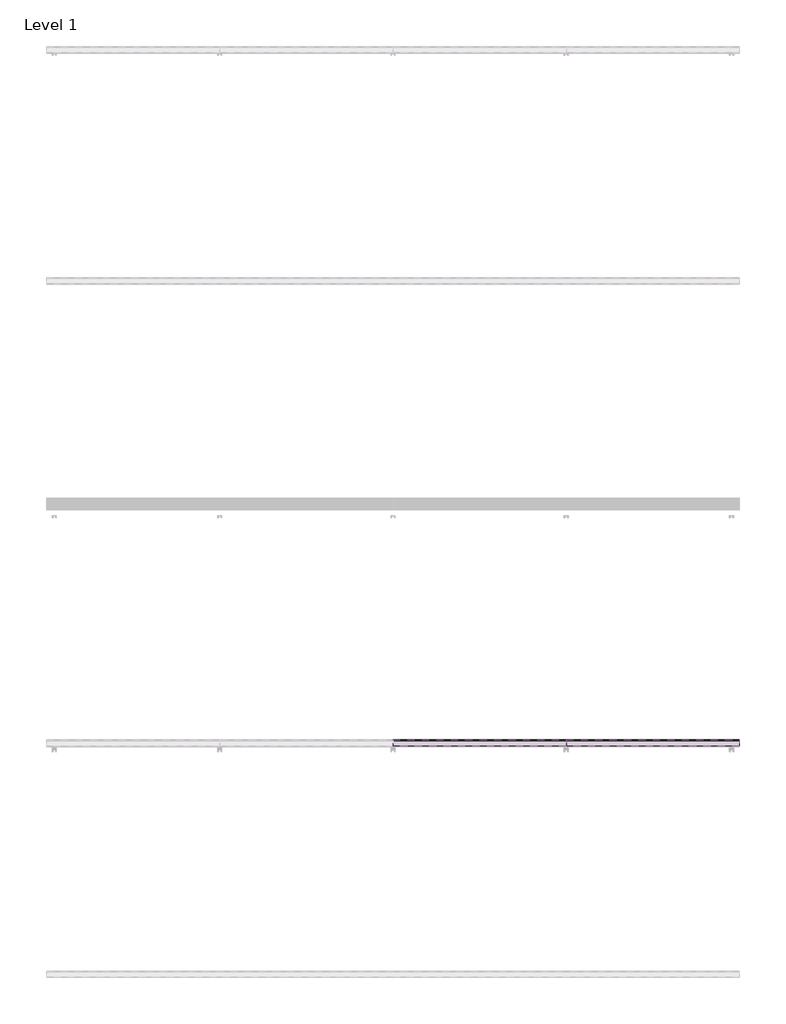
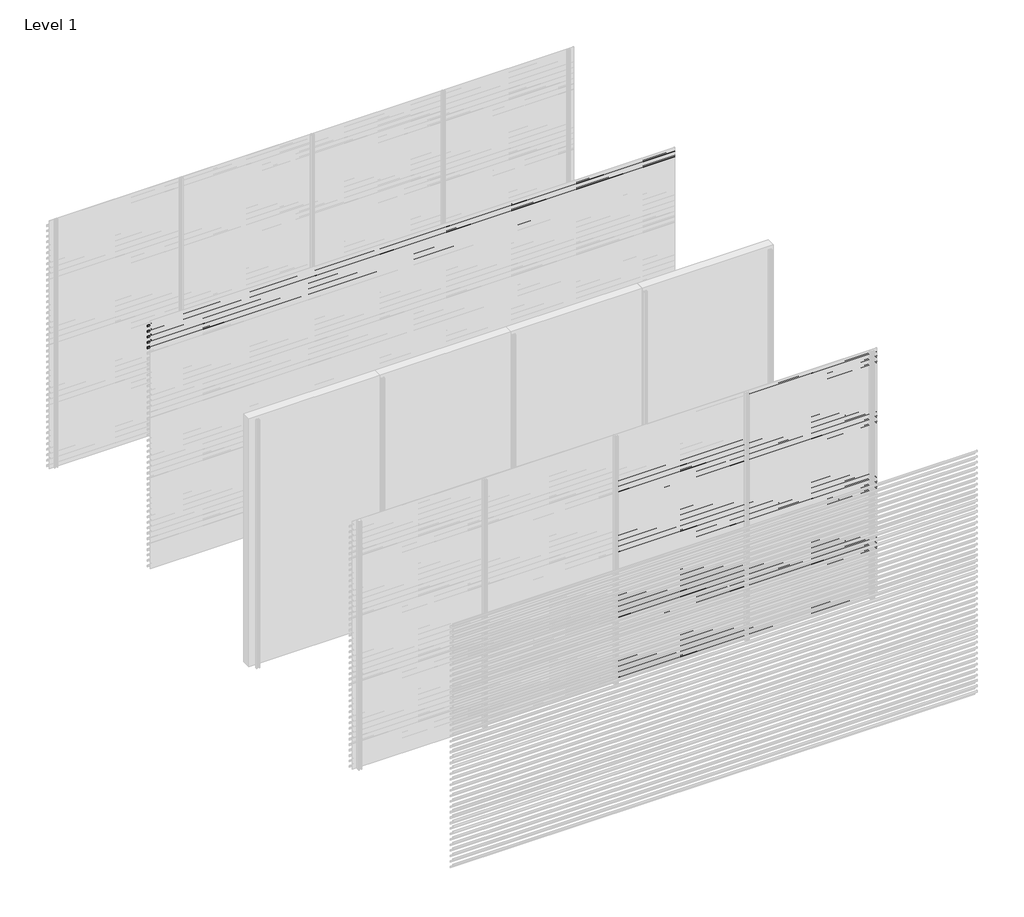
# One storey, part 20 of 25: 87 proxies.
"""IFC4 building model written with IfcOpenShell, lengths in millimetres."""

from ifc_helpers import new_model, si_unit, frame, origin, place, context, project, spatial, polyline, outline, extrude, element, save

model = new_model("IFC4")

# Units and contexts
model_context = context("Model", 3, world=origin())
ifc_project = project(units=[si_unit("LENGTHUNIT", "METRE", prefix="MILLI")], contexts=[model_context])

# Site, building, storey
site = spatial("IfcSite", under=ifc_project)
building = spatial("IfcBuilding", under=site)
storey = spatial("IfcBuildingStorey", under=building, Name="Level 1", Elevation=0.0)

# Proxies
placement = place(None, origin())
element("IfcBuildingElementProxy", 1, Name="Wall Sweeps", at=placement, inside=storey, context=model_context, shape_type="SweptSolid", body=[
    extrude(outline(polyline([(-7943.0, 2913.5), (-7943.0, 2893.5), (-7944.25, 2894.2216933), (-7944.25, 2912.7872415), (-7998.0, 2950.3158044), (-7998.0, 2970.0), (-7996.75, 2970.0), (-7996.75, 2951.0285629), (-7943.0, 2913.5)])), frame((0.0, 0.0, 0.0), z_axis=(1.0, 0.0, 0.0), x_axis=(0.0, 1.0, 0.0)), (0.0, 0.0, 1.0), 6000.0),
])
element("IfcBuildingElementProxy", 2, Name="Wall Sweeps", at=placement, inside=storey, context=model_context, shape_type="SweptSolid", body=[
    extrude(outline(polyline([(-7943.0, 2847.5), (-7943.0, 2827.5), (-7944.25, 2828.2216933), (-7944.25, 2846.7872415), (-7998.0, 2884.3158044), (-7998.0, 2904.0), (-7996.75, 2904.0), (-7996.75, 2885.0285629), (-7943.0, 2847.5)])), frame((0.0, 0.0, 0.0), z_axis=(1.0, 0.0, 0.0), x_axis=(0.0, 1.0, 0.0)), (0.0, 0.0, 1.0), 6000.0),
])
element("IfcBuildingElementProxy", 3, Name="Wall Sweeps", at=placement, inside=storey, context=model_context, shape_type="SweptSolid", body=[
    extrude(outline(polyline([(-7943.0, 2781.5), (-7943.0, 2761.5), (-7944.25, 2762.2216933), (-7944.25, 2780.7872415), (-7998.0, 2818.3158044), (-7998.0, 2838.0), (-7996.75, 2838.0), (-7996.75, 2819.0285629), (-7943.0, 2781.5)])), frame((0.0, 0.0, 0.0), z_axis=(1.0, 0.0, 0.0), x_axis=(0.0, 1.0, 0.0)), (0.0, 0.0, 1.0), 6000.0),
])
element("IfcBuildingElementProxy", 4, Name="Wall Sweeps", at=placement, inside=storey, context=model_context, shape_type="SweptSolid", body=[
    extrude(outline(polyline([(-7943.0, 2715.5), (-7943.0, 2695.5), (-7944.25, 2696.2216933), (-7944.25, 2714.7872415), (-7998.0, 2752.3158044), (-7998.0, 2772.0), (-7996.75, 2772.0), (-7996.75, 2753.0285629), (-7943.0, 2715.5)])), frame((0.0, 0.0, 0.0), z_axis=(1.0, 0.0, 0.0), x_axis=(0.0, 1.0, 0.0)), (0.0, 0.0, 1.0), 6000.0),
])
element("IfcBuildingElementProxy", 5, Name="Wall Sweeps", at=placement, inside=storey, context=model_context, shape_type="SweptSolid", body=[
    extrude(outline(polyline([(-7943.0, 2649.5), (-7943.0, 2629.5), (-7944.25, 2630.2216933), (-7944.25, 2648.7872415), (-7998.0, 2686.3158044), (-7998.0, 2706.0), (-7996.75, 2706.0), (-7996.75, 2687.0285629), (-7943.0, 2649.5)])), frame((0.0, 0.0, 0.0), z_axis=(1.0, 0.0, 0.0), x_axis=(0.0, 1.0, 0.0)), (0.0, 0.0, 1.0), 6000.0),
])
element("IfcBuildingElementProxy", 6, Name="Wall Sweeps", at=placement, inside=storey, context=model_context, shape_type="SweptSolid", body=[
    extrude(outline(polyline([(-11943.0, 2385.5), (-11943.0, 2365.5), (-11944.25, 2366.2216933), (-11944.25, 2384.7872415), (-11998.0, 2422.3158044), (-11998.0, 2442.0), (-11996.75, 2442.0), (-11996.75, 2423.0285629), (-11943.0, 2385.5)])), frame((3000.0, 0.0, 0.0), z_axis=(1.0, 0.0, 0.0), x_axis=(0.0, 1.0, 0.0)), (0.0, 0.0, 1.0), 1500.0),
])
element("IfcBuildingElementProxy", 7, Name="Wall Sweeps", at=placement, inside=storey, context=model_context, shape_type="SweptSolid", body=[
    extrude(outline(polyline([(-11943.0, 2319.5), (-11943.0, 2299.5), (-11944.25, 2300.2216933), (-11944.25, 2318.7872415), (-11998.0, 2356.3158044), (-11998.0, 2376.0), (-11996.75, 2376.0), (-11996.75, 2357.0285629), (-11943.0, 2319.5)])), frame((3000.0, 0.0, 0.0), z_axis=(1.0, 0.0, 0.0), x_axis=(0.0, 1.0, 0.0)), (0.0, 0.0, 1.0), 1500.0),
])
element("IfcBuildingElementProxy", 8, Name="Wall Sweeps", at=placement, inside=storey, context=model_context, shape_type="SweptSolid", body=[
    extrude(outline(polyline([(-11943.0, 2253.5), (-11943.0, 2233.5), (-11944.25, 2234.2216933), (-11944.25, 2252.7872415), (-11998.0, 2290.3158044), (-11998.0, 2310.0), (-11996.75, 2310.0), (-11996.75, 2291.0285629), (-11943.0, 2253.5)])), frame((3000.0, 0.0, 0.0), z_axis=(1.0, 0.0, 0.0), x_axis=(0.0, 1.0, 0.0)), (0.0, 0.0, 1.0), 1500.0),
])
element("IfcBuildingElementProxy", 9, Name="Wall Sweeps", at=placement, inside=storey, context=model_context, shape_type="SweptSolid", body=[
    extrude(outline(polyline([(-11943.0, 2187.5), (-11943.0, 2167.5), (-11944.25, 2168.2216933), (-11944.25, 2186.7872415), (-11998.0, 2224.3158044), (-11998.0, 2244.0), (-11996.75, 2244.0), (-11996.75, 2225.0285629), (-11943.0, 2187.5)])), frame((3000.0, 0.0, 0.0), z_axis=(1.0, 0.0, 0.0), x_axis=(0.0, 1.0, 0.0)), (0.0, 0.0, 1.0), 1500.0),
])
element("IfcBuildingElementProxy", 10, Name="Wall Sweeps", at=placement, inside=storey, context=model_context, shape_type="SweptSolid", body=[
    extrude(outline(polyline([(-11943.0, 2121.5), (-11943.0, 2101.5), (-11944.25, 2102.2216933), (-11944.25, 2120.7872415), (-11998.0, 2158.3158044), (-11998.0, 2178.0), (-11996.75, 2178.0), (-11996.75, 2159.0285629), (-11943.0, 2121.5)])), frame((3000.0, 0.0, 0.0), z_axis=(1.0, 0.0, 0.0), x_axis=(0.0, 1.0, 0.0)), (0.0, 0.0, 1.0), 1500.0),
])
element("IfcBuildingElementProxy", 11, Name="Wall Sweeps", at=placement, inside=storey, context=model_context, shape_type="SweptSolid", body=[
    extrude(outline(polyline([(-11943.0, 2055.5), (-11943.0, 2035.5), (-11944.25, 2036.2216933), (-11944.25, 2054.7872415), (-11998.0, 2092.3158044), (-11998.0, 2112.0), (-11996.75, 2112.0), (-11996.75, 2093.0285629), (-11943.0, 2055.5)])), frame((3000.0, 0.0, 0.0), z_axis=(1.0, 0.0, 0.0), x_axis=(0.0, 1.0, 0.0)), (0.0, 0.0, 1.0), 1500.0),
])
element("IfcBuildingElementProxy", 12, Name="Wall Sweeps", at=placement, inside=storey, context=model_context, shape_type="SweptSolid", body=[
    extrude(outline(polyline([(-11943.0, 1989.5), (-11943.0, 1969.5), (-11944.25, 1970.2216933), (-11944.25, 1988.7872415), (-11998.0, 2026.3158044), (-11998.0, 2046.0), (-11996.75, 2046.0), (-11996.75, 2027.0285629), (-11943.0, 1989.5)])), frame((3000.0, 0.0, 0.0), z_axis=(1.0, 0.0, 0.0), x_axis=(0.0, 1.0, 0.0)), (0.0, 0.0, 1.0), 1500.0),
])
element("IfcBuildingElementProxy", 13, Name="Wall Sweeps", at=placement, inside=storey, context=model_context, shape_type="SweptSolid", body=[
    extrude(outline(polyline([(-11943.0, 1923.5), (-11943.0, 1903.5), (-11944.25, 1904.2216933), (-11944.25, 1922.7872415), (-11998.0, 1960.3158044), (-11998.0, 1980.0), (-11996.75, 1980.0), (-11996.75, 1961.0285629), (-11943.0, 1923.5)])), frame((3000.0, 0.0, 0.0), z_axis=(1.0, 0.0, 0.0), x_axis=(0.0, 1.0, 0.0)), (0.0, 0.0, 1.0), 1500.0),
])
element("IfcBuildingElementProxy", 14, Name="Wall Sweeps", at=placement, inside=storey, context=model_context, shape_type="SweptSolid", body=[
    extrude(outline(polyline([(-11943.0, 1857.5), (-11943.0, 1837.5), (-11944.25, 1838.2216933), (-11944.25, 1856.7872415), (-11998.0, 1894.3158044), (-11998.0, 1914.0), (-11996.75, 1914.0), (-11996.75, 1895.0285629), (-11943.0, 1857.5)])), frame((3000.0, 0.0, 0.0), z_axis=(1.0, 0.0, 0.0), x_axis=(0.0, 1.0, 0.0)), (0.0, 0.0, 1.0), 1500.0),
])
element("IfcBuildingElementProxy", 15, Name="Wall Sweeps", at=placement, inside=storey, context=model_context, shape_type="SweptSolid", body=[
    extrude(outline(polyline([(-11943.0, 1791.5), (-11943.0, 1771.5), (-11944.25, 1772.2216933), (-11944.25, 1790.7872415), (-11998.0, 1828.3158044), (-11998.0, 1848.0), (-11996.75, 1848.0), (-11996.75, 1829.0285629), (-11943.0, 1791.5)])), frame((3000.0, 0.0, 0.0), z_axis=(1.0, 0.0, 0.0), x_axis=(0.0, 1.0, 0.0)), (0.0, 0.0, 1.0), 1500.0),
])
element("IfcBuildingElementProxy", 16, Name="Wall Sweeps", at=placement, inside=storey, context=model_context, shape_type="SweptSolid", body=[
    extrude(outline(polyline([(-11943.0, 1725.5), (-11943.0, 1705.5), (-11944.25, 1706.2216933), (-11944.25, 1724.7872415), (-11998.0, 1762.3158044), (-11998.0, 1782.0), (-11996.75, 1782.0), (-11996.75, 1763.0285629), (-11943.0, 1725.5)])), frame((3000.0, 0.0, 0.0), z_axis=(1.0, 0.0, 0.0), x_axis=(0.0, 1.0, 0.0)), (0.0, 0.0, 1.0), 1500.0),
])
element("IfcBuildingElementProxy", 17, Name="Wall Sweeps", at=placement, inside=storey, context=model_context, shape_type="SweptSolid", body=[
    extrude(outline(polyline([(-11943.0, 1659.5), (-11943.0, 1639.5), (-11944.25, 1640.2216933), (-11944.25, 1658.7872415), (-11998.0, 1696.3158044), (-11998.0, 1716.0), (-11996.75, 1716.0), (-11996.75, 1697.0285629), (-11943.0, 1659.5)])), frame((3000.0, 0.0, 0.0), z_axis=(1.0, 0.0, 0.0), x_axis=(0.0, 1.0, 0.0)), (0.0, 0.0, 1.0), 1500.0),
])
element("IfcBuildingElementProxy", 18, Name="Wall Sweeps", at=placement, inside=storey, context=model_context, shape_type="SweptSolid", body=[
    extrude(outline(polyline([(-11943.0, 1593.5), (-11943.0, 1573.5), (-11944.25, 1574.2216933), (-11944.25, 1592.7872415), (-11998.0, 1630.3158044), (-11998.0, 1650.0), (-11996.75, 1650.0), (-11996.75, 1631.0285629), (-11943.0, 1593.5)])), frame((3000.0, 0.0, 0.0), z_axis=(1.0, 0.0, 0.0), x_axis=(0.0, 1.0, 0.0)), (0.0, 0.0, 1.0), 1500.0),
])
element("IfcBuildingElementProxy", 19, Name="Wall Sweeps", at=placement, inside=storey, context=model_context, shape_type="SweptSolid", body=[
    extrude(outline(polyline([(-11943.0, 1527.5), (-11943.0, 1507.5), (-11944.25, 1508.2216933), (-11944.25, 1526.7872415), (-11998.0, 1564.3158044), (-11998.0, 1584.0), (-11996.75, 1584.0), (-11996.75, 1565.0285629), (-11943.0, 1527.5)])), frame((3000.0, 0.0, 0.0), z_axis=(1.0, 0.0, 0.0), x_axis=(0.0, 1.0, 0.0)), (0.0, 0.0, 1.0), 1500.0),
])
element("IfcBuildingElementProxy", 20, Name="Wall Sweeps", at=placement, inside=storey, context=model_context, shape_type="SweptSolid", body=[
    extrude(outline(polyline([(-11943.0, 1461.5), (-11943.0, 1441.5), (-11944.25, 1442.2216933), (-11944.25, 1460.7872415), (-11998.0, 1498.3158044), (-11998.0, 1518.0), (-11996.75, 1518.0), (-11996.75, 1499.0285629), (-11943.0, 1461.5)])), frame((3000.0, 0.0, 0.0), z_axis=(1.0, 0.0, 0.0), x_axis=(0.0, 1.0, 0.0)), (0.0, 0.0, 1.0), 1500.0),
])
element("IfcBuildingElementProxy", 21, Name="Wall Sweeps", at=placement, inside=storey, context=model_context, shape_type="SweptSolid", body=[
    extrude(outline(polyline([(-11943.0, 1395.5), (-11943.0, 1375.5), (-11944.25, 1376.2216933), (-11944.25, 1394.7872415), (-11998.0, 1432.3158044), (-11998.0, 1452.0), (-11996.75, 1452.0), (-11996.75, 1433.0285629), (-11943.0, 1395.5)])), frame((3000.0, 0.0, 0.0), z_axis=(1.0, 0.0, 0.0), x_axis=(0.0, 1.0, 0.0)), (0.0, 0.0, 1.0), 1500.0),
])
element("IfcBuildingElementProxy", 22, Name="Wall Sweeps", at=placement, inside=storey, context=model_context, shape_type="SweptSolid", body=[
    extrude(outline(polyline([(-11943.0, 1329.5), (-11943.0, 1309.5), (-11944.25, 1310.2216933), (-11944.25, 1328.7872415), (-11998.0, 1366.3158044), (-11998.0, 1386.0), (-11996.75, 1386.0), (-11996.75, 1367.0285629), (-11943.0, 1329.5)])), frame((3000.0, 0.0, 0.0), z_axis=(1.0, 0.0, 0.0), x_axis=(0.0, 1.0, 0.0)), (0.0, 0.0, 1.0), 1500.0),
])
element("IfcBuildingElementProxy", 23, Name="Wall Sweeps", at=placement, inside=storey, context=model_context, shape_type="SweptSolid", body=[
    extrude(outline(polyline([(-11943.0, 1263.5), (-11943.0, 1243.5), (-11944.25, 1244.2216933), (-11944.25, 1262.7872415), (-11998.0, 1300.3158044), (-11998.0, 1320.0), (-11996.75, 1320.0), (-11996.75, 1301.0285629), (-11943.0, 1263.5)])), frame((3000.0, 0.0, 0.0), z_axis=(1.0, 0.0, 0.0), x_axis=(0.0, 1.0, 0.0)), (0.0, 0.0, 1.0), 1500.0),
])
element("IfcBuildingElementProxy", 24, Name="Wall Sweeps", at=placement, inside=storey, context=model_context, shape_type="SweptSolid", body=[
    extrude(outline(polyline([(-11943.0, 1197.5), (-11943.0, 1177.5), (-11944.25, 1178.2216933), (-11944.25, 1196.7872415), (-11998.0, 1234.3158044), (-11998.0, 1254.0), (-11996.75, 1254.0), (-11996.75, 1235.0285629), (-11943.0, 1197.5)])), frame((3000.0, 0.0, 0.0), z_axis=(1.0, 0.0, 0.0), x_axis=(0.0, 1.0, 0.0)), (0.0, 0.0, 1.0), 1500.0),
])
element("IfcBuildingElementProxy", 25, Name="Wall Sweeps", at=placement, inside=storey, context=model_context, shape_type="SweptSolid", body=[
    extrude(outline(polyline([(-11943.0, 1131.5), (-11943.0, 1111.5), (-11944.25, 1112.2216933), (-11944.25, 1130.7872415), (-11998.0, 1168.3158044), (-11998.0, 1188.0), (-11996.75, 1188.0), (-11996.75, 1169.0285629), (-11943.0, 1131.5)])), frame((3000.0, 0.0, 0.0), z_axis=(1.0, 0.0, 0.0), x_axis=(0.0, 1.0, 0.0)), (0.0, 0.0, 1.0), 1500.0),
])
element("IfcBuildingElementProxy", 26, Name="Wall Sweeps", at=placement, inside=storey, context=model_context, shape_type="SweptSolid", body=[
    extrude(outline(polyline([(-11943.0, 1065.5), (-11943.0, 1045.5), (-11944.25, 1046.2216933), (-11944.25, 1064.7872415), (-11998.0, 1102.3158044), (-11998.0, 1122.0), (-11996.75, 1122.0), (-11996.75, 1103.0285629), (-11943.0, 1065.5)])), frame((3000.0, 0.0, 0.0), z_axis=(1.0, 0.0, 0.0), x_axis=(0.0, 1.0, 0.0)), (0.0, 0.0, 1.0), 1500.0),
])
element("IfcBuildingElementProxy", 27, Name="Wall Sweeps", at=placement, inside=storey, context=model_context, shape_type="SweptSolid", body=[
    extrude(outline(polyline([(-11943.0, 999.5), (-11943.0, 979.5), (-11944.25, 980.2216933), (-11944.25, 998.7872415), (-11998.0, 1036.3158044), (-11998.0, 1056.0), (-11996.75, 1056.0), (-11996.75, 1037.0285629), (-11943.0, 999.5)])), frame((3000.0, 0.0, 0.0), z_axis=(1.0, 0.0, 0.0), x_axis=(0.0, 1.0, 0.0)), (0.0, 0.0, 1.0), 1500.0),
])
element("IfcBuildingElementProxy", 28, Name="Wall Sweeps", at=placement, inside=storey, context=model_context, shape_type="SweptSolid", body=[
    extrude(outline(polyline([(-11943.0, 933.5), (-11943.0, 913.5), (-11944.25, 914.2216933), (-11944.25, 932.7872415), (-11998.0, 970.3158044), (-11998.0, 990.0), (-11996.75, 990.0), (-11996.75, 971.0285629), (-11943.0, 933.5)])), frame((3000.0, 0.0, 0.0), z_axis=(1.0, 0.0, 0.0), x_axis=(0.0, 1.0, 0.0)), (0.0, 0.0, 1.0), 1500.0),
])
element("IfcBuildingElementProxy", 29, Name="Wall Sweeps", at=placement, inside=storey, context=model_context, shape_type="SweptSolid", body=[
    extrude(outline(polyline([(-11943.0, 867.5), (-11943.0, 847.5), (-11944.25, 848.2216933), (-11944.25, 866.7872415), (-11998.0, 904.3158044), (-11998.0, 924.0), (-11996.75, 924.0), (-11996.75, 905.0285629), (-11943.0, 867.5)])), frame((3000.0, 0.0, 0.0), z_axis=(1.0, 0.0, 0.0), x_axis=(0.0, 1.0, 0.0)), (0.0, 0.0, 1.0), 1500.0),
])
element("IfcBuildingElementProxy", 30, Name="Wall Sweeps", at=placement, inside=storey, context=model_context, shape_type="SweptSolid", body=[
    extrude(outline(polyline([(-11943.0, 801.5), (-11943.0, 781.5), (-11944.25, 782.2216933), (-11944.25, 800.7872415), (-11998.0, 838.3158044), (-11998.0, 858.0), (-11996.75, 858.0), (-11996.75, 839.0285629), (-11943.0, 801.5)])), frame((3000.0, 0.0, 0.0), z_axis=(1.0, 0.0, 0.0), x_axis=(0.0, 1.0, 0.0)), (0.0, 0.0, 1.0), 1500.0),
])
element("IfcBuildingElementProxy", 31, Name="Wall Sweeps", at=placement, inside=storey, context=model_context, shape_type="SweptSolid", body=[
    extrude(outline(polyline([(-11943.0, 735.5), (-11943.0, 715.5), (-11944.25, 716.2216933), (-11944.25, 734.7872415), (-11998.0, 772.3158044), (-11998.0, 792.0), (-11996.75, 792.0), (-11996.75, 773.0285629), (-11943.0, 735.5)])), frame((3000.0, 0.0, 0.0), z_axis=(1.0, 0.0, 0.0), x_axis=(0.0, 1.0, 0.0)), (0.0, 0.0, 1.0), 1500.0),
])
element("IfcBuildingElementProxy", 32, Name="Wall Sweeps", at=placement, inside=storey, context=model_context, shape_type="SweptSolid", body=[
    extrude(outline(polyline([(-11943.0, 669.5), (-11943.0, 649.5), (-11944.25, 650.2216933), (-11944.25, 668.7872415), (-11998.0, 706.3158044), (-11998.0, 726.0), (-11996.75, 726.0), (-11996.75, 707.0285629), (-11943.0, 669.5)])), frame((3000.0, 0.0, 0.0), z_axis=(1.0, 0.0, 0.0), x_axis=(0.0, 1.0, 0.0)), (0.0, 0.0, 1.0), 1500.0),
])
element("IfcBuildingElementProxy", 33, Name="Wall Sweeps", at=placement, inside=storey, context=model_context, shape_type="SweptSolid", body=[
    extrude(outline(polyline([(-11943.0, 603.5), (-11943.0, 583.5), (-11944.25, 584.2216933), (-11944.25, 602.7872415), (-11998.0, 640.3158044), (-11998.0, 660.0), (-11996.75, 660.0), (-11996.75, 641.0285629), (-11943.0, 603.5)])), frame((3000.0, 0.0, 0.0), z_axis=(1.0, 0.0, 0.0), x_axis=(0.0, 1.0, 0.0)), (0.0, 0.0, 1.0), 1500.0),
])
element("IfcBuildingElementProxy", 34, Name="Wall Sweeps", at=placement, inside=storey, context=model_context, shape_type="SweptSolid", body=[
    extrude(outline(polyline([(-11943.0, 537.5), (-11943.0, 517.5), (-11944.25, 518.2216933), (-11944.25, 536.7872415), (-11998.0, 574.3158044), (-11998.0, 594.0), (-11996.75, 594.0), (-11996.75, 575.0285629), (-11943.0, 537.5)])), frame((3000.0, 0.0, 0.0), z_axis=(1.0, 0.0, 0.0), x_axis=(0.0, 1.0, 0.0)), (0.0, 0.0, 1.0), 1500.0),
])
element("IfcBuildingElementProxy", 35, Name="Wall Sweeps", at=placement, inside=storey, context=model_context, shape_type="SweptSolid", body=[
    extrude(outline(polyline([(-11943.0, 471.5), (-11943.0, 451.5), (-11944.25, 452.2216933), (-11944.25, 470.7872415), (-11998.0, 508.3158044), (-11998.0, 528.0), (-11996.75, 528.0), (-11996.75, 509.0285629), (-11943.0, 471.5)])), frame((3000.0, 0.0, 0.0), z_axis=(1.0, 0.0, 0.0), x_axis=(0.0, 1.0, 0.0)), (0.0, 0.0, 1.0), 1500.0),
])
element("IfcBuildingElementProxy", 36, Name="Wall Sweeps", at=placement, inside=storey, context=model_context, shape_type="SweptSolid", body=[
    extrude(outline(polyline([(-11943.0, 405.5), (-11943.0, 385.5), (-11944.25, 386.2216933), (-11944.25, 404.7872415), (-11998.0, 442.3158044), (-11998.0, 462.0), (-11996.75, 462.0), (-11996.75, 443.0285629), (-11943.0, 405.5)])), frame((3000.0, 0.0, 0.0), z_axis=(1.0, 0.0, 0.0), x_axis=(0.0, 1.0, 0.0)), (0.0, 0.0, 1.0), 1500.0),
])
element("IfcBuildingElementProxy", 37, Name="Wall Sweeps", at=placement, inside=storey, context=model_context, shape_type="SweptSolid", body=[
    extrude(outline(polyline([(-11943.0, 339.5), (-11943.0, 319.5), (-11944.25, 320.2216933), (-11944.25, 338.7872415), (-11998.0, 376.3158044), (-11998.0, 396.0), (-11996.75, 396.0), (-11996.75, 377.0285629), (-11943.0, 339.5)])), frame((3000.0, 0.0, 0.0), z_axis=(1.0, 0.0, 0.0), x_axis=(0.0, 1.0, 0.0)), (0.0, 0.0, 1.0), 1500.0),
])
element("IfcBuildingElementProxy", 38, Name="Wall Sweeps", at=placement, inside=storey, context=model_context, shape_type="SweptSolid", body=[
    extrude(outline(polyline([(-11943.0, 273.5), (-11943.0, 253.5), (-11944.25, 254.2216933), (-11944.25, 272.7872415), (-11998.0, 310.3158044), (-11998.0, 330.0), (-11996.75, 330.0), (-11996.75, 311.0285629), (-11943.0, 273.5)])), frame((3000.0, 0.0, 0.0), z_axis=(1.0, 0.0, 0.0), x_axis=(0.0, 1.0, 0.0)), (0.0, 0.0, 1.0), 1500.0),
])
element("IfcBuildingElementProxy", 39, Name="Wall Sweeps", at=placement, inside=storey, context=model_context, shape_type="SweptSolid", body=[
    extrude(outline(polyline([(-11943.0, 207.5), (-11943.0, 187.5), (-11944.25, 188.2216933), (-11944.25, 206.7872415), (-11998.0, 244.3158044), (-11998.0, 264.0), (-11996.75, 264.0), (-11996.75, 245.0285629), (-11943.0, 207.5)])), frame((3000.0, 0.0, 0.0), z_axis=(1.0, 0.0, 0.0), x_axis=(0.0, 1.0, 0.0)), (0.0, 0.0, 1.0), 1500.0),
])
element("IfcBuildingElementProxy", 40, Name="Wall Sweeps", at=placement, inside=storey, context=model_context, shape_type="SweptSolid", body=[
    extrude(outline(polyline([(-11943.0, 141.5), (-11943.0, 121.5), (-11944.25, 122.2216933), (-11944.25, 140.7872415), (-11998.0, 178.3158044), (-11998.0, 198.0), (-11996.75, 198.0), (-11996.75, 179.0285629), (-11943.0, 141.5)])), frame((3000.0, 0.0, 0.0), z_axis=(1.0, 0.0, 0.0), x_axis=(0.0, 1.0, 0.0)), (0.0, 0.0, 1.0), 1500.0),
])
element("IfcBuildingElementProxy", 41, Name="Wall Sweeps", at=placement, inside=storey, context=model_context, shape_type="SweptSolid", body=[
    extrude(outline(polyline([(-11943.0, 75.5), (-11943.0, 55.5), (-11944.25, 56.2216933), (-11944.25, 74.7872415), (-11998.0, 112.3158044), (-11998.0, 132.0), (-11996.75, 132.0), (-11996.75, 113.0285629), (-11943.0, 75.5)])), frame((3000.0, 0.0, 0.0), z_axis=(1.0, 0.0, 0.0), x_axis=(0.0, 1.0, 0.0)), (0.0, 0.0, 1.0), 1500.0),
])
element("IfcBuildingElementProxy", 42, Name="Wall Sweeps", at=placement, inside=storey, context=model_context, shape_type="SweptSolid", body=[
    extrude(outline(polyline([(-11943.0, 9.5), (-11943.0, -10.5), (-11944.25, -9.7783067), (-11944.25, 8.7872415), (-11998.0, 46.3158044), (-11998.0, 66.0), (-11996.75, 66.0), (-11996.75, 47.0285629), (-11943.0, 9.5)])), frame((3000.0, 0.0, 0.0), z_axis=(1.0, 0.0, 0.0), x_axis=(0.0, 1.0, 0.0)), (0.0, 0.0, 1.0), 1500.0),
])
element("IfcBuildingElementProxy", 43, Name="Wall Sweeps", at=placement, inside=storey, context=model_context, shape_type="SweptSolid", body=[
    extrude(outline(polyline([(-11943.0, 2913.5), (-11943.0, 2893.5), (-11944.25, 2894.2216933), (-11944.25, 2912.7872415), (-11998.0, 2950.3158044), (-11998.0, 2970.0), (-11996.75, 2970.0), (-11996.75, 2951.0285629), (-11943.0, 2913.5)])), frame((4500.0, 0.0, 0.0), z_axis=(1.0, 0.0, 0.0), x_axis=(0.0, 1.0, 0.0)), (0.0, 0.0, 1.0), 1500.0),
])
element("IfcBuildingElementProxy", 44, Name="Wall Sweeps", at=placement, inside=storey, context=model_context, shape_type="SweptSolid", body=[
    extrude(outline(polyline([(-11943.0, 2847.5), (-11943.0, 2827.5), (-11944.25, 2828.2216933), (-11944.25, 2846.7872415), (-11998.0, 2884.3158044), (-11998.0, 2904.0), (-11996.75, 2904.0), (-11996.75, 2885.0285629), (-11943.0, 2847.5)])), frame((4500.0, 0.0, 0.0), z_axis=(1.0, 0.0, 0.0), x_axis=(0.0, 1.0, 0.0)), (0.0, 0.0, 1.0), 1500.0),
])
element("IfcBuildingElementProxy", 45, Name="Wall Sweeps", at=placement, inside=storey, context=model_context, shape_type="SweptSolid", body=[
    extrude(outline(polyline([(-11943.0, 2781.5), (-11943.0, 2761.5), (-11944.25, 2762.2216933), (-11944.25, 2780.7872415), (-11998.0, 2818.3158044), (-11998.0, 2838.0), (-11996.75, 2838.0), (-11996.75, 2819.0285629), (-11943.0, 2781.5)])), frame((4500.0, 0.0, 0.0), z_axis=(1.0, 0.0, 0.0), x_axis=(0.0, 1.0, 0.0)), (0.0, 0.0, 1.0), 1500.0),
])
element("IfcBuildingElementProxy", 46, Name="Wall Sweeps", at=placement, inside=storey, context=model_context, shape_type="SweptSolid", body=[
    extrude(outline(polyline([(-11943.0, 2715.5), (-11943.0, 2695.5), (-11944.25, 2696.2216933), (-11944.25, 2714.7872415), (-11998.0, 2752.3158044), (-11998.0, 2772.0), (-11996.75, 2772.0), (-11996.75, 2753.0285629), (-11943.0, 2715.5)])), frame((4500.0, 0.0, 0.0), z_axis=(1.0, 0.0, 0.0), x_axis=(0.0, 1.0, 0.0)), (0.0, 0.0, 1.0), 1500.0),
])
element("IfcBuildingElementProxy", 47, Name="Wall Sweeps", at=placement, inside=storey, context=model_context, shape_type="SweptSolid", body=[
    extrude(outline(polyline([(-11943.0, 2649.5), (-11943.0, 2629.5), (-11944.25, 2630.2216933), (-11944.25, 2648.7872415), (-11998.0, 2686.3158044), (-11998.0, 2706.0), (-11996.75, 2706.0), (-11996.75, 2687.0285629), (-11943.0, 2649.5)])), frame((4500.0, 0.0, 0.0), z_axis=(1.0, 0.0, 0.0), x_axis=(0.0, 1.0, 0.0)), (0.0, 0.0, 1.0), 1500.0),
])
element("IfcBuildingElementProxy", 48, Name="Wall Sweeps", at=placement, inside=storey, context=model_context, shape_type="SweptSolid", body=[
    extrude(outline(polyline([(-11943.0, 2583.5), (-11943.0, 2563.5), (-11944.25, 2564.2216933), (-11944.25, 2582.7872415), (-11998.0, 2620.3158044), (-11998.0, 2640.0), (-11996.75, 2640.0), (-11996.75, 2621.0285629), (-11943.0, 2583.5)])), frame((4500.0, 0.0, 0.0), z_axis=(1.0, 0.0, 0.0), x_axis=(0.0, 1.0, 0.0)), (0.0, 0.0, 1.0), 1500.0),
])
element("IfcBuildingElementProxy", 49, Name="Wall Sweeps", at=placement, inside=storey, context=model_context, shape_type="SweptSolid", body=[
    extrude(outline(polyline([(-11943.0, 2517.5), (-11943.0, 2497.5), (-11944.25, 2498.2216933), (-11944.25, 2516.7872415), (-11998.0, 2554.3158044), (-11998.0, 2574.0), (-11996.75, 2574.0), (-11996.75, 2555.0285629), (-11943.0, 2517.5)])), frame((4500.0, 0.0, 0.0), z_axis=(1.0, 0.0, 0.0), x_axis=(0.0, 1.0, 0.0)), (0.0, 0.0, 1.0), 1500.0),
])
element("IfcBuildingElementProxy", 50, Name="Wall Sweeps", at=placement, inside=storey, context=model_context, shape_type="SweptSolid", body=[
    extrude(outline(polyline([(-11943.0, 2451.5), (-11943.0, 2431.5), (-11944.25, 2432.2216933), (-11944.25, 2450.7872415), (-11998.0, 2488.3158044), (-11998.0, 2508.0), (-11996.75, 2508.0), (-11996.75, 2489.0285629), (-11943.0, 2451.5)])), frame((4500.0, 0.0, 0.0), z_axis=(1.0, 0.0, 0.0), x_axis=(0.0, 1.0, 0.0)), (0.0, 0.0, 1.0), 1500.0),
])
element("IfcBuildingElementProxy", 51, Name="Wall Sweeps", at=placement, inside=storey, context=model_context, shape_type="SweptSolid", body=[
    extrude(outline(polyline([(-11943.0, 2385.5), (-11943.0, 2365.5), (-11944.25, 2366.2216933), (-11944.25, 2384.7872415), (-11998.0, 2422.3158044), (-11998.0, 2442.0), (-11996.75, 2442.0), (-11996.75, 2423.0285629), (-11943.0, 2385.5)])), frame((4500.0, 0.0, 0.0), z_axis=(1.0, 0.0, 0.0), x_axis=(0.0, 1.0, 0.0)), (0.0, 0.0, 1.0), 1500.0),
])
element("IfcBuildingElementProxy", 52, Name="Wall Sweeps", at=placement, inside=storey, context=model_context, shape_type="SweptSolid", body=[
    extrude(outline(polyline([(-11943.0, 2319.5), (-11943.0, 2299.5), (-11944.25, 2300.2216933), (-11944.25, 2318.7872415), (-11998.0, 2356.3158044), (-11998.0, 2376.0), (-11996.75, 2376.0), (-11996.75, 2357.0285629), (-11943.0, 2319.5)])), frame((4500.0, 0.0, 0.0), z_axis=(1.0, 0.0, 0.0), x_axis=(0.0, 1.0, 0.0)), (0.0, 0.0, 1.0), 1500.0),
])
element("IfcBuildingElementProxy", 53, Name="Wall Sweeps", at=placement, inside=storey, context=model_context, shape_type="SweptSolid", body=[
    extrude(outline(polyline([(-11943.0, 2253.5), (-11943.0, 2233.5), (-11944.25, 2234.2216933), (-11944.25, 2252.7872415), (-11998.0, 2290.3158044), (-11998.0, 2310.0), (-11996.75, 2310.0), (-11996.75, 2291.0285629), (-11943.0, 2253.5)])), frame((4500.0, 0.0, 0.0), z_axis=(1.0, 0.0, 0.0), x_axis=(0.0, 1.0, 0.0)), (0.0, 0.0, 1.0), 1500.0),
])
element("IfcBuildingElementProxy", 54, Name="Wall Sweeps", at=placement, inside=storey, context=model_context, shape_type="SweptSolid", body=[
    extrude(outline(polyline([(-11943.0, 2187.5), (-11943.0, 2167.5), (-11944.25, 2168.2216933), (-11944.25, 2186.7872415), (-11998.0, 2224.3158044), (-11998.0, 2244.0), (-11996.75, 2244.0), (-11996.75, 2225.0285629), (-11943.0, 2187.5)])), frame((4500.0, 0.0, 0.0), z_axis=(1.0, 0.0, 0.0), x_axis=(0.0, 1.0, 0.0)), (0.0, 0.0, 1.0), 1500.0),
])
element("IfcBuildingElementProxy", 55, Name="Wall Sweeps", at=placement, inside=storey, context=model_context, shape_type="SweptSolid", body=[
    extrude(outline(polyline([(-11943.0, 2121.5), (-11943.0, 2101.5), (-11944.25, 2102.2216933), (-11944.25, 2120.7872415), (-11998.0, 2158.3158044), (-11998.0, 2178.0), (-11996.75, 2178.0), (-11996.75, 2159.0285629), (-11943.0, 2121.5)])), frame((4500.0, 0.0, 0.0), z_axis=(1.0, 0.0, 0.0), x_axis=(0.0, 1.0, 0.0)), (0.0, 0.0, 1.0), 1500.0),
])
element("IfcBuildingElementProxy", 56, Name="Wall Sweeps", at=placement, inside=storey, context=model_context, shape_type="SweptSolid", body=[
    extrude(outline(polyline([(-11943.0, 2055.5), (-11943.0, 2035.5), (-11944.25, 2036.2216933), (-11944.25, 2054.7872415), (-11998.0, 2092.3158044), (-11998.0, 2112.0), (-11996.75, 2112.0), (-11996.75, 2093.0285629), (-11943.0, 2055.5)])), frame((4500.0, 0.0, 0.0), z_axis=(1.0, 0.0, 0.0), x_axis=(0.0, 1.0, 0.0)), (0.0, 0.0, 1.0), 1500.0),
])
element("IfcBuildingElementProxy", 57, Name="Wall Sweeps", at=placement, inside=storey, context=model_context, shape_type="SweptSolid", body=[
    extrude(outline(polyline([(-11943.0, 1989.5), (-11943.0, 1969.5), (-11944.25, 1970.2216933), (-11944.25, 1988.7872415), (-11998.0, 2026.3158044), (-11998.0, 2046.0), (-11996.75, 2046.0), (-11996.75, 2027.0285629), (-11943.0, 1989.5)])), frame((4500.0, 0.0, 0.0), z_axis=(1.0, 0.0, 0.0), x_axis=(0.0, 1.0, 0.0)), (0.0, 0.0, 1.0), 1500.0),
])
element("IfcBuildingElementProxy", 58, Name="Wall Sweeps", at=placement, inside=storey, context=model_context, shape_type="SweptSolid", body=[
    extrude(outline(polyline([(-11943.0, 1923.5), (-11943.0, 1903.5), (-11944.25, 1904.2216933), (-11944.25, 1922.7872415), (-11998.0, 1960.3158044), (-11998.0, 1980.0), (-11996.75, 1980.0), (-11996.75, 1961.0285629), (-11943.0, 1923.5)])), frame((4500.0, 0.0, 0.0), z_axis=(1.0, 0.0, 0.0), x_axis=(0.0, 1.0, 0.0)), (0.0, 0.0, 1.0), 1500.0),
])
element("IfcBuildingElementProxy", 59, Name="Wall Sweeps", at=placement, inside=storey, context=model_context, shape_type="SweptSolid", body=[
    extrude(outline(polyline([(-11943.0, 1857.5), (-11943.0, 1837.5), (-11944.25, 1838.2216933), (-11944.25, 1856.7872415), (-11998.0, 1894.3158044), (-11998.0, 1914.0), (-11996.75, 1914.0), (-11996.75, 1895.0285629), (-11943.0, 1857.5)])), frame((4500.0, 0.0, 0.0), z_axis=(1.0, 0.0, 0.0), x_axis=(0.0, 1.0, 0.0)), (0.0, 0.0, 1.0), 1500.0),
])
element("IfcBuildingElementProxy", 60, Name="Wall Sweeps", at=placement, inside=storey, context=model_context, shape_type="SweptSolid", body=[
    extrude(outline(polyline([(-11943.0, 1791.5), (-11943.0, 1771.5), (-11944.25, 1772.2216933), (-11944.25, 1790.7872415), (-11998.0, 1828.3158044), (-11998.0, 1848.0), (-11996.75, 1848.0), (-11996.75, 1829.0285629), (-11943.0, 1791.5)])), frame((4500.0, 0.0, 0.0), z_axis=(1.0, 0.0, 0.0), x_axis=(0.0, 1.0, 0.0)), (0.0, 0.0, 1.0), 1500.0),
])
element("IfcBuildingElementProxy", 61, Name="Wall Sweeps", at=placement, inside=storey, context=model_context, shape_type="SweptSolid", body=[
    extrude(outline(polyline([(-11943.0, 1725.5), (-11943.0, 1705.5), (-11944.25, 1706.2216933), (-11944.25, 1724.7872415), (-11998.0, 1762.3158044), (-11998.0, 1782.0), (-11996.75, 1782.0), (-11996.75, 1763.0285629), (-11943.0, 1725.5)])), frame((4500.0, 0.0, 0.0), z_axis=(1.0, 0.0, 0.0), x_axis=(0.0, 1.0, 0.0)), (0.0, 0.0, 1.0), 1500.0),
])
element("IfcBuildingElementProxy", 62, Name="Wall Sweeps", at=placement, inside=storey, context=model_context, shape_type="SweptSolid", body=[
    extrude(outline(polyline([(-11943.0, 1659.5), (-11943.0, 1639.5), (-11944.25, 1640.2216933), (-11944.25, 1658.7872415), (-11998.0, 1696.3158044), (-11998.0, 1716.0), (-11996.75, 1716.0), (-11996.75, 1697.0285629), (-11943.0, 1659.5)])), frame((4500.0, 0.0, 0.0), z_axis=(1.0, 0.0, 0.0), x_axis=(0.0, 1.0, 0.0)), (0.0, 0.0, 1.0), 1500.0),
])
element("IfcBuildingElementProxy", 63, Name="Wall Sweeps", at=placement, inside=storey, context=model_context, shape_type="SweptSolid", body=[
    extrude(outline(polyline([(-11943.0, 1593.5), (-11943.0, 1573.5), (-11944.25, 1574.2216933), (-11944.25, 1592.7872415), (-11998.0, 1630.3158044), (-11998.0, 1650.0), (-11996.75, 1650.0), (-11996.75, 1631.0285629), (-11943.0, 1593.5)])), frame((4500.0, 0.0, 0.0), z_axis=(1.0, 0.0, 0.0), x_axis=(0.0, 1.0, 0.0)), (0.0, 0.0, 1.0), 1500.0),
])
element("IfcBuildingElementProxy", 64, Name="Wall Sweeps", at=placement, inside=storey, context=model_context, shape_type="SweptSolid", body=[
    extrude(outline(polyline([(-11943.0, 1527.5), (-11943.0, 1507.5), (-11944.25, 1508.2216933), (-11944.25, 1526.7872415), (-11998.0, 1564.3158044), (-11998.0, 1584.0), (-11996.75, 1584.0), (-11996.75, 1565.0285629), (-11943.0, 1527.5)])), frame((4500.0, 0.0, 0.0), z_axis=(1.0, 0.0, 0.0), x_axis=(0.0, 1.0, 0.0)), (0.0, 0.0, 1.0), 1500.0),
])
element("IfcBuildingElementProxy", 65, Name="Wall Sweeps", at=placement, inside=storey, context=model_context, shape_type="SweptSolid", body=[
    extrude(outline(polyline([(-11943.0, 1461.5), (-11943.0, 1441.5), (-11944.25, 1442.2216933), (-11944.25, 1460.7872415), (-11998.0, 1498.3158044), (-11998.0, 1518.0), (-11996.75, 1518.0), (-11996.75, 1499.0285629), (-11943.0, 1461.5)])), frame((4500.0, 0.0, 0.0), z_axis=(1.0, 0.0, 0.0), x_axis=(0.0, 1.0, 0.0)), (0.0, 0.0, 1.0), 1500.0),
])
element("IfcBuildingElementProxy", 66, Name="Wall Sweeps", at=placement, inside=storey, context=model_context, shape_type="SweptSolid", body=[
    extrude(outline(polyline([(-11943.0, 1395.5), (-11943.0, 1375.5), (-11944.25, 1376.2216933), (-11944.25, 1394.7872415), (-11998.0, 1432.3158044), (-11998.0, 1452.0), (-11996.75, 1452.0), (-11996.75, 1433.0285629), (-11943.0, 1395.5)])), frame((4500.0, 0.0, 0.0), z_axis=(1.0, 0.0, 0.0), x_axis=(0.0, 1.0, 0.0)), (0.0, 0.0, 1.0), 1500.0),
])
element("IfcBuildingElementProxy", 67, Name="Wall Sweeps", at=placement, inside=storey, context=model_context, shape_type="SweptSolid", body=[
    extrude(outline(polyline([(-11943.0, 1329.5), (-11943.0, 1309.5), (-11944.25, 1310.2216933), (-11944.25, 1328.7872415), (-11998.0, 1366.3158044), (-11998.0, 1386.0), (-11996.75, 1386.0), (-11996.75, 1367.0285629), (-11943.0, 1329.5)])), frame((4500.0, 0.0, 0.0), z_axis=(1.0, 0.0, 0.0), x_axis=(0.0, 1.0, 0.0)), (0.0, 0.0, 1.0), 1500.0),
])
element("IfcBuildingElementProxy", 68, Name="Wall Sweeps", at=placement, inside=storey, context=model_context, shape_type="SweptSolid", body=[
    extrude(outline(polyline([(-11943.0, 1263.5), (-11943.0, 1243.5), (-11944.25, 1244.2216933), (-11944.25, 1262.7872415), (-11998.0, 1300.3158044), (-11998.0, 1320.0), (-11996.75, 1320.0), (-11996.75, 1301.0285629), (-11943.0, 1263.5)])), frame((4500.0, 0.0, 0.0), z_axis=(1.0, 0.0, 0.0), x_axis=(0.0, 1.0, 0.0)), (0.0, 0.0, 1.0), 1500.0),
])
element("IfcBuildingElementProxy", 69, Name="Wall Sweeps", at=placement, inside=storey, context=model_context, shape_type="SweptSolid", body=[
    extrude(outline(polyline([(-11943.0, 1197.5), (-11943.0, 1177.5), (-11944.25, 1178.2216933), (-11944.25, 1196.7872415), (-11998.0, 1234.3158044), (-11998.0, 1254.0), (-11996.75, 1254.0), (-11996.75, 1235.0285629), (-11943.0, 1197.5)])), frame((4500.0, 0.0, 0.0), z_axis=(1.0, 0.0, 0.0), x_axis=(0.0, 1.0, 0.0)), (0.0, 0.0, 1.0), 1500.0),
])
element("IfcBuildingElementProxy", 70, Name="Wall Sweeps", at=placement, inside=storey, context=model_context, shape_type="SweptSolid", body=[
    extrude(outline(polyline([(-11943.0, 1131.5), (-11943.0, 1111.5), (-11944.25, 1112.2216933), (-11944.25, 1130.7872415), (-11998.0, 1168.3158044), (-11998.0, 1188.0), (-11996.75, 1188.0), (-11996.75, 1169.0285629), (-11943.0, 1131.5)])), frame((4500.0, 0.0, 0.0), z_axis=(1.0, 0.0, 0.0), x_axis=(0.0, 1.0, 0.0)), (0.0, 0.0, 1.0), 1500.0),
])
element("IfcBuildingElementProxy", 71, Name="Wall Sweeps", at=placement, inside=storey, context=model_context, shape_type="SweptSolid", body=[
    extrude(outline(polyline([(-11943.0, 1065.5), (-11943.0, 1045.5), (-11944.25, 1046.2216933), (-11944.25, 1064.7872415), (-11998.0, 1102.3158044), (-11998.0, 1122.0), (-11996.75, 1122.0), (-11996.75, 1103.0285629), (-11943.0, 1065.5)])), frame((4500.0, 0.0, 0.0), z_axis=(1.0, 0.0, 0.0), x_axis=(0.0, 1.0, 0.0)), (0.0, 0.0, 1.0), 1500.0),
])
element("IfcBuildingElementProxy", 72, Name="Wall Sweeps", at=placement, inside=storey, context=model_context, shape_type="SweptSolid", body=[
    extrude(outline(polyline([(-11943.0, 999.5), (-11943.0, 979.5), (-11944.25, 980.2216933), (-11944.25, 998.7872415), (-11998.0, 1036.3158044), (-11998.0, 1056.0), (-11996.75, 1056.0), (-11996.75, 1037.0285629), (-11943.0, 999.5)])), frame((4500.0, 0.0, 0.0), z_axis=(1.0, 0.0, 0.0), x_axis=(0.0, 1.0, 0.0)), (0.0, 0.0, 1.0), 1500.0),
])
element("IfcBuildingElementProxy", 73, Name="Wall Sweeps", at=placement, inside=storey, context=model_context, shape_type="SweptSolid", body=[
    extrude(outline(polyline([(-11943.0, 933.5), (-11943.0, 913.5), (-11944.25, 914.2216933), (-11944.25, 932.7872415), (-11998.0, 970.3158044), (-11998.0, 990.0), (-11996.75, 990.0), (-11996.75, 971.0285629), (-11943.0, 933.5)])), frame((4500.0, 0.0, 0.0), z_axis=(1.0, 0.0, 0.0), x_axis=(0.0, 1.0, 0.0)), (0.0, 0.0, 1.0), 1500.0),
])
element("IfcBuildingElementProxy", 74, Name="Wall Sweeps", at=placement, inside=storey, context=model_context, shape_type="SweptSolid", body=[
    extrude(outline(polyline([(-11943.0, 867.5), (-11943.0, 847.5), (-11944.25, 848.2216933), (-11944.25, 866.7872415), (-11998.0, 904.3158044), (-11998.0, 924.0), (-11996.75, 924.0), (-11996.75, 905.0285629), (-11943.0, 867.5)])), frame((4500.0, 0.0, 0.0), z_axis=(1.0, 0.0, 0.0), x_axis=(0.0, 1.0, 0.0)), (0.0, 0.0, 1.0), 1500.0),
])
element("IfcBuildingElementProxy", 75, Name="Wall Sweeps", at=placement, inside=storey, context=model_context, shape_type="SweptSolid", body=[
    extrude(outline(polyline([(-11943.0, 801.5), (-11943.0, 781.5), (-11944.25, 782.2216933), (-11944.25, 800.7872415), (-11998.0, 838.3158044), (-11998.0, 858.0), (-11996.75, 858.0), (-11996.75, 839.0285629), (-11943.0, 801.5)])), frame((4500.0, 0.0, 0.0), z_axis=(1.0, 0.0, 0.0), x_axis=(0.0, 1.0, 0.0)), (0.0, 0.0, 1.0), 1500.0),
])
element("IfcBuildingElementProxy", 76, Name="Wall Sweeps", at=placement, inside=storey, context=model_context, shape_type="SweptSolid", body=[
    extrude(outline(polyline([(-11943.0, 735.5), (-11943.0, 715.5), (-11944.25, 716.2216933), (-11944.25, 734.7872415), (-11998.0, 772.3158044), (-11998.0, 792.0), (-11996.75, 792.0), (-11996.75, 773.0285629), (-11943.0, 735.5)])), frame((4500.0, 0.0, 0.0), z_axis=(1.0, 0.0, 0.0), x_axis=(0.0, 1.0, 0.0)), (0.0, 0.0, 1.0), 1500.0),
])
element("IfcBuildingElementProxy", 77, Name="Wall Sweeps", at=placement, inside=storey, context=model_context, shape_type="SweptSolid", body=[
    extrude(outline(polyline([(-11943.0, 669.5), (-11943.0, 649.5), (-11944.25, 650.2216933), (-11944.25, 668.7872415), (-11998.0, 706.3158044), (-11998.0, 726.0), (-11996.75, 726.0), (-11996.75, 707.0285629), (-11943.0, 669.5)])), frame((4500.0, 0.0, 0.0), z_axis=(1.0, 0.0, 0.0), x_axis=(0.0, 1.0, 0.0)), (0.0, 0.0, 1.0), 1500.0),
])
element("IfcBuildingElementProxy", 78, Name="Wall Sweeps", at=placement, inside=storey, context=model_context, shape_type="SweptSolid", body=[
    extrude(outline(polyline([(-11943.0, 603.5), (-11943.0, 583.5), (-11944.25, 584.2216933), (-11944.25, 602.7872415), (-11998.0, 640.3158044), (-11998.0, 660.0), (-11996.75, 660.0), (-11996.75, 641.0285629), (-11943.0, 603.5)])), frame((4500.0, 0.0, 0.0), z_axis=(1.0, 0.0, 0.0), x_axis=(0.0, 1.0, 0.0)), (0.0, 0.0, 1.0), 1500.0),
])
element("IfcBuildingElementProxy", 79, Name="Wall Sweeps", at=placement, inside=storey, context=model_context, shape_type="SweptSolid", body=[
    extrude(outline(polyline([(-11943.0, 537.5), (-11943.0, 517.5), (-11944.25, 518.2216933), (-11944.25, 536.7872415), (-11998.0, 574.3158044), (-11998.0, 594.0), (-11996.75, 594.0), (-11996.75, 575.0285629), (-11943.0, 537.5)])), frame((4500.0, 0.0, 0.0), z_axis=(1.0, 0.0, 0.0), x_axis=(0.0, 1.0, 0.0)), (0.0, 0.0, 1.0), 1500.0),
])
element("IfcBuildingElementProxy", 80, Name="Wall Sweeps", at=placement, inside=storey, context=model_context, shape_type="SweptSolid", body=[
    extrude(outline(polyline([(-11943.0, 471.5), (-11943.0, 451.5), (-11944.25, 452.2216933), (-11944.25, 470.7872415), (-11998.0, 508.3158044), (-11998.0, 528.0), (-11996.75, 528.0), (-11996.75, 509.0285629), (-11943.0, 471.5)])), frame((4500.0, 0.0, 0.0), z_axis=(1.0, 0.0, 0.0), x_axis=(0.0, 1.0, 0.0)), (0.0, 0.0, 1.0), 1500.0),
])
element("IfcBuildingElementProxy", 81, Name="Wall Sweeps", at=placement, inside=storey, context=model_context, shape_type="SweptSolid", body=[
    extrude(outline(polyline([(-11943.0, 405.5), (-11943.0, 385.5), (-11944.25, 386.2216933), (-11944.25, 404.7872415), (-11998.0, 442.3158044), (-11998.0, 462.0), (-11996.75, 462.0), (-11996.75, 443.0285629), (-11943.0, 405.5)])), frame((4500.0, 0.0, 0.0), z_axis=(1.0, 0.0, 0.0), x_axis=(0.0, 1.0, 0.0)), (0.0, 0.0, 1.0), 1500.0),
])
element("IfcBuildingElementProxy", 82, Name="Wall Sweeps", at=placement, inside=storey, context=model_context, shape_type="SweptSolid", body=[
    extrude(outline(polyline([(-11943.0, 339.5), (-11943.0, 319.5), (-11944.25, 320.2216933), (-11944.25, 338.7872415), (-11998.0, 376.3158044), (-11998.0, 396.0), (-11996.75, 396.0), (-11996.75, 377.0285629), (-11943.0, 339.5)])), frame((4500.0, 0.0, 0.0), z_axis=(1.0, 0.0, 0.0), x_axis=(0.0, 1.0, 0.0)), (0.0, 0.0, 1.0), 1500.0),
])
element("IfcBuildingElementProxy", 83, Name="Wall Sweeps", at=placement, inside=storey, context=model_context, shape_type="SweptSolid", body=[
    extrude(outline(polyline([(-11943.0, 273.5), (-11943.0, 253.5), (-11944.25, 254.2216933), (-11944.25, 272.7872415), (-11998.0, 310.3158044), (-11998.0, 330.0), (-11996.75, 330.0), (-11996.75, 311.0285629), (-11943.0, 273.5)])), frame((4500.0, 0.0, 0.0), z_axis=(1.0, 0.0, 0.0), x_axis=(0.0, 1.0, 0.0)), (0.0, 0.0, 1.0), 1500.0),
])
element("IfcBuildingElementProxy", 84, Name="Wall Sweeps", at=placement, inside=storey, context=model_context, shape_type="SweptSolid", body=[
    extrude(outline(polyline([(-11943.0, 207.5), (-11943.0, 187.5), (-11944.25, 188.2216933), (-11944.25, 206.7872415), (-11998.0, 244.3158044), (-11998.0, 264.0), (-11996.75, 264.0), (-11996.75, 245.0285629), (-11943.0, 207.5)])), frame((4500.0, 0.0, 0.0), z_axis=(1.0, 0.0, 0.0), x_axis=(0.0, 1.0, 0.0)), (0.0, 0.0, 1.0), 1500.0),
])
element("IfcBuildingElementProxy", 85, Name="Wall Sweeps", at=placement, inside=storey, context=model_context, shape_type="SweptSolid", body=[
    extrude(outline(polyline([(-11943.0, 141.5), (-11943.0, 121.5), (-11944.25, 122.2216933), (-11944.25, 140.7872415), (-11998.0, 178.3158044), (-11998.0, 198.0), (-11996.75, 198.0), (-11996.75, 179.0285629), (-11943.0, 141.5)])), frame((4500.0, 0.0, 0.0), z_axis=(1.0, 0.0, 0.0), x_axis=(0.0, 1.0, 0.0)), (0.0, 0.0, 1.0), 1500.0),
])
element("IfcBuildingElementProxy", 86, Name="Wall Sweeps", at=placement, inside=storey, context=model_context, shape_type="SweptSolid", body=[
    extrude(outline(polyline([(-11943.0, 75.5), (-11943.0, 55.5), (-11944.25, 56.2216933), (-11944.25, 74.7872415), (-11998.0, 112.3158044), (-11998.0, 132.0), (-11996.75, 132.0), (-11996.75, 113.0285629), (-11943.0, 75.5)])), frame((4500.0, 0.0, 0.0), z_axis=(1.0, 0.0, 0.0), x_axis=(0.0, 1.0, 0.0)), (0.0, 0.0, 1.0), 1500.0),
])
element("IfcBuildingElementProxy", 87, Name="Wall Sweeps", at=placement, inside=storey, context=model_context, shape_type="SweptSolid", body=[
    extrude(outline(polyline([(-11943.0, 9.5), (-11943.0, -10.5), (-11944.25, -9.7783067), (-11944.25, 8.7872415), (-11998.0, 46.3158044), (-11998.0, 66.0), (-11996.75, 66.0), (-11996.75, 47.0285629), (-11943.0, 9.5)])), frame((4500.0, 0.0, 0.0), z_axis=(1.0, 0.0, 0.0), x_axis=(0.0, 1.0, 0.0)), (0.0, 0.0, 1.0), 1500.0),
])

save(model, "model.ifc")
